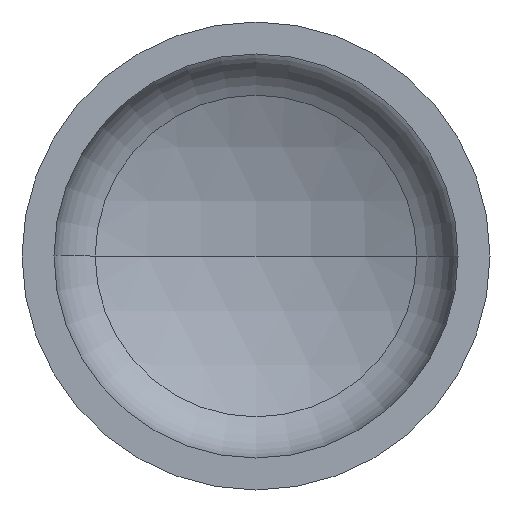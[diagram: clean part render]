
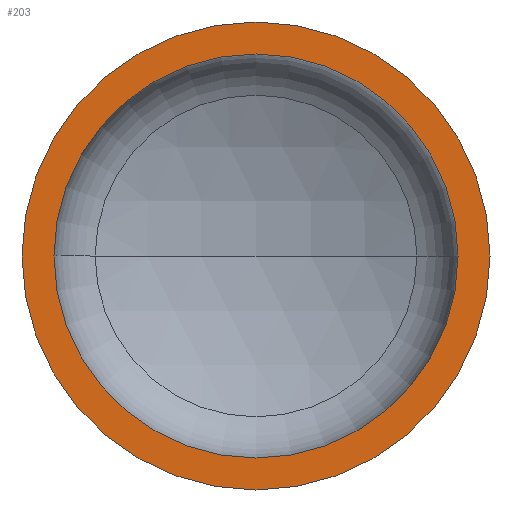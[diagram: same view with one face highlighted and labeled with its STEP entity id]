
A CAD part, front view. The second image highlights one B-rep face of the part: STEP entity #203.
In plain terms, the highlighted planar face has unit normal (0, -1, 0).
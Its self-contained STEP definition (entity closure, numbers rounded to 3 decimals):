
#4 = CARTESIAN_POINT ( 'NONE',  ( -600., 0., 0. ) ) ;
#6 = EDGE_CURVE ( 'NONE', #95, #155, #372, .T. ) ;
#11 = EDGE_CURVE ( 'NONE', #87, #141, #296, .T. ) ;
#31 = ORIENTED_EDGE ( 'NONE', *, *, #6, .T. ) ;
#35 = EDGE_CURVE ( 'NONE', #155, #95, #289, .T. ) ;
#44 = ORIENTED_EDGE ( 'NONE', *, *, #11, .F. ) ;
#63 = EDGE_LOOP ( 'NONE', ( #44, #108 ) ) ;
#87 = VERTEX_POINT ( 'NONE', #193 ) ;
#95 = VERTEX_POINT ( 'NONE', #4 ) ;
#108 = ORIENTED_EDGE ( 'NONE', *, *, #205, .F. ) ;
#114 = DIRECTION ( 'NONE',  ( 0., 1., 0. ) ) ;
#115 = DIRECTION ( 'NONE',  ( 1., 0., 0. ) ) ;
#128 = DIRECTION ( 'NONE',  ( -1., 0., 0. ) ) ;
#136 = PLANE ( 'NONE',  #277 ) ;
#141 = VERTEX_POINT ( 'NONE', #165 ) ;
#155 = VERTEX_POINT ( 'NONE', #185 ) ;
#165 = CARTESIAN_POINT ( 'NONE',  ( -518., 0., 0. ) ) ;
#185 = CARTESIAN_POINT ( 'NONE',  ( 600., 0., 0. ) ) ;
#193 = CARTESIAN_POINT ( 'NONE',  ( 518., 0., 0. ) ) ;
#203 = ADVANCED_FACE ( 'NONE', ( #334, #206 ), #136, .F. ) ;
#205 = EDGE_CURVE ( 'NONE', #141, #87, #262, .T. ) ;
#206 = FACE_OUTER_BOUND ( 'NONE', #254, .T. ) ;
#214 = DIRECTION ( 'NONE',  ( 1., 0., 0. ) ) ;
#254 = EDGE_LOOP ( 'NONE', ( #375, #31 ) ) ;
#262 = CIRCLE ( 'NONE', #263, 518. ) ;
#263 = AXIS2_PLACEMENT_3D ( 'NONE', #357, #293, #115 ) ;
#266 = AXIS2_PLACEMENT_3D ( 'NONE', #341, #340, #339 ) ;
#277 = AXIS2_PLACEMENT_3D ( 'NONE', #397, #114, #128 ) ;
#284 = AXIS2_PLACEMENT_3D ( 'NONE', #329, #326, #324 ) ;
#289 = CIRCLE ( 'NONE', #373, 600. ) ;
#293 = DIRECTION ( 'NONE',  ( 0., -1., 0. ) ) ;
#296 = CIRCLE ( 'NONE', #284, 518. ) ;
#304 = DIRECTION ( 'NONE',  ( 0., -1., 0. ) ) ;
#307 = CARTESIAN_POINT ( 'NONE',  ( 0., 0., 0. ) ) ;
#324 = DIRECTION ( 'NONE',  ( 1., 0., 0. ) ) ;
#326 = DIRECTION ( 'NONE',  ( 0., -1., 0. ) ) ;
#329 = CARTESIAN_POINT ( 'NONE',  ( 0., 0., 0. ) ) ;
#334 = FACE_BOUND ( 'NONE', #63, .T. ) ;
#339 = DIRECTION ( 'NONE',  ( 1., 0., 0. ) ) ;
#340 = DIRECTION ( 'NONE',  ( 0., -1., 0. ) ) ;
#341 = CARTESIAN_POINT ( 'NONE',  ( 0., 0., 0. ) ) ;
#357 = CARTESIAN_POINT ( 'NONE',  ( 0., 0., 0. ) ) ;
#372 = CIRCLE ( 'NONE', #266, 600. ) ;
#373 = AXIS2_PLACEMENT_3D ( 'NONE', #307, #304, #214 ) ;
#375 = ORIENTED_EDGE ( 'NONE', *, *, #35, .T. ) ;
#397 = CARTESIAN_POINT ( 'NONE',  ( -600., 0., 0. ) ) ;
